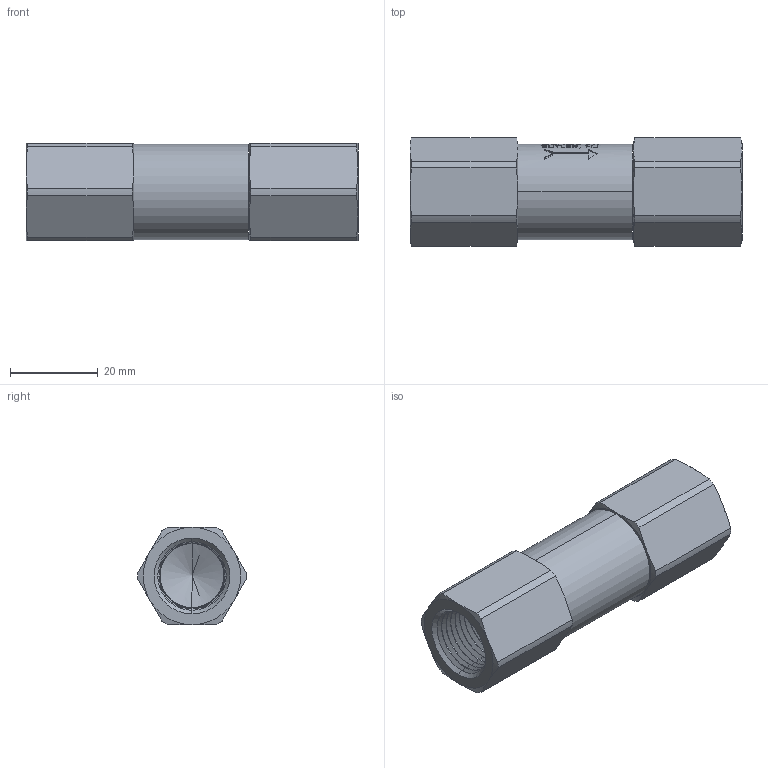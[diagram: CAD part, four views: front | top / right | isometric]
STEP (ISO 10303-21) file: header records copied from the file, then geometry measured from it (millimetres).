
FILE_DESCRIPTION (( 'STEP AP203' ), '1' );
FILE_NAME ('PCV-6F.STEP', '2019-07-23T11:41:00', ( '' ), ( '' ), 'SwSTEP 2.0', 'SolidWorks 2011', '' );
FILE_SCHEMA (( 'CONFIG_CONTROL_DESIGN' ));
Length unit declared in the file: inch
Products named in the file (2): PCV-6F; Part1^PCV-6F_CM
Assembly tree (1 placements, depth 2):
  PCV-6F
    Part1^PCV-6F_CM
Bounding box: 75.82 x 24.76 x 22.23 mm (x, y, z)
Volume: 24334.8 mm3; surface area: 9221.5 mm2
Topology: 1 solids, 1 shells, 419 faces, 1023 edges, 630 vertices
Faces by surface type: cone 151, plane 147, bspline 70, cylinder 51
Entity records: 17213 total; most frequent: CARTESIAN_POINT 7786, ORIENTED_EDGE 2038, DIRECTION 1731, EDGE_CURVE 1019, AXIS2_PLACEMENT_3D 665, VERTEX_POINT 630, EDGE_LOOP 447, ADVANCED_FACE 419
